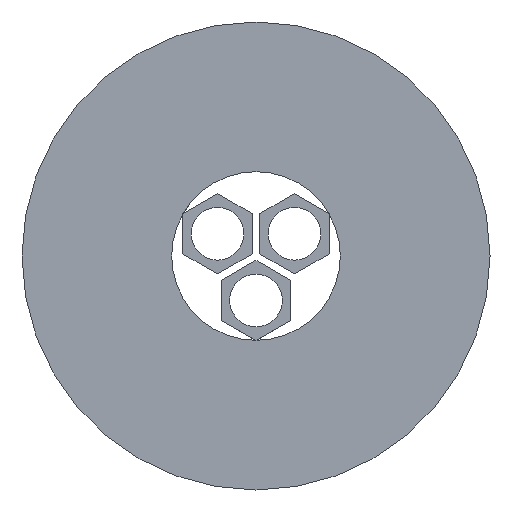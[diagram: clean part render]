
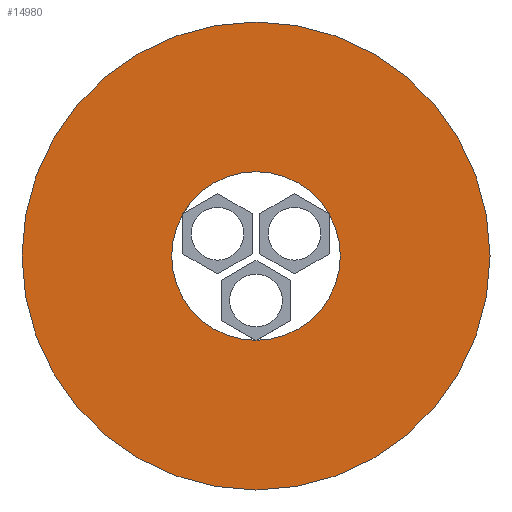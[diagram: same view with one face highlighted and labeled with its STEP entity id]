
A CAD part, front view. The second image highlights one B-rep face of the part: STEP entity #14980.
In plain terms, the highlighted planar face has unit normal (0, -1, 0).
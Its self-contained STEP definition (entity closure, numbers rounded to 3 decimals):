
#11030=CARTESIAN_POINT('',(-194.976,36.121,0.));
#11040=VERTEX_POINT('',#11030);
#11120=CARTESIAN_POINT('',(-210.976,36.121,
0.));
#11130=VERTEX_POINT('',#11120);
#11160=CARTESIAN_POINT('',(-202.976,36.121,0.));
#11170=DIRECTION('',(0.,1.,0.));
#11180=DIRECTION('',(1.,0.,0.));
#11190=AXIS2_PLACEMENT_3D('',#11160,#11170,#11180);
#11200=CIRCLE('',#11190,8.);
#11210=EDGE_CURVE('',#11130,#11040,#11200,.T.);
#14520=CARTESIAN_POINT('',(-225.176,36.121,0.));
#14530=VERTEX_POINT('',#14520);
#14560=CARTESIAN_POINT('',(-202.976,36.121,0.));
#14570=DIRECTION('',(0.,-1.,0.));
#14580=DIRECTION('',(1.,0.,0.));
#14590=AXIS2_PLACEMENT_3D('',#14560,#14570,#14580);
#14600=CIRCLE('',#14590,22.2);
#14610=CARTESIAN_POINT('',(-180.776,36.121,
0.));
#14620=VERTEX_POINT('',#14610);
#14630=EDGE_CURVE('',#14530,#14620,#14600,.T.);
#14830=CARTESIAN_POINT('',(-191.876,36.121,
0.));
#14840=DIRECTION('',(0.,-1.,0.));
#14850=DIRECTION('',(1.,0.,0.));
#14860=AXIS2_PLACEMENT_3D('',#14830,#14840,#14850);
#14870=PLANE('',#14860);
#14880=EDGE_CURVE('',#14620,#14530,#14600,.T.);
#14890=ORIENTED_EDGE('',*,*,#14880,.T.);
#14900=ORIENTED_EDGE('',*,*,#14630,.T.);
#14910=EDGE_LOOP('',(#14900,#14890));
#14920=FACE_OUTER_BOUND('',#14910,.T.);
#14930=EDGE_CURVE('',#11040,#11130,#11200,.T.);
#14940=ORIENTED_EDGE('',*,*,#14930,.T.);
#14950=ORIENTED_EDGE('',*,*,#11210,.T.);
#14960=EDGE_LOOP('',(#14950,#14940));
#14970=FACE_BOUND('',#14960,.T.);
#14980=ADVANCED_FACE('',(#14920,#14970),#14870,.T.);
